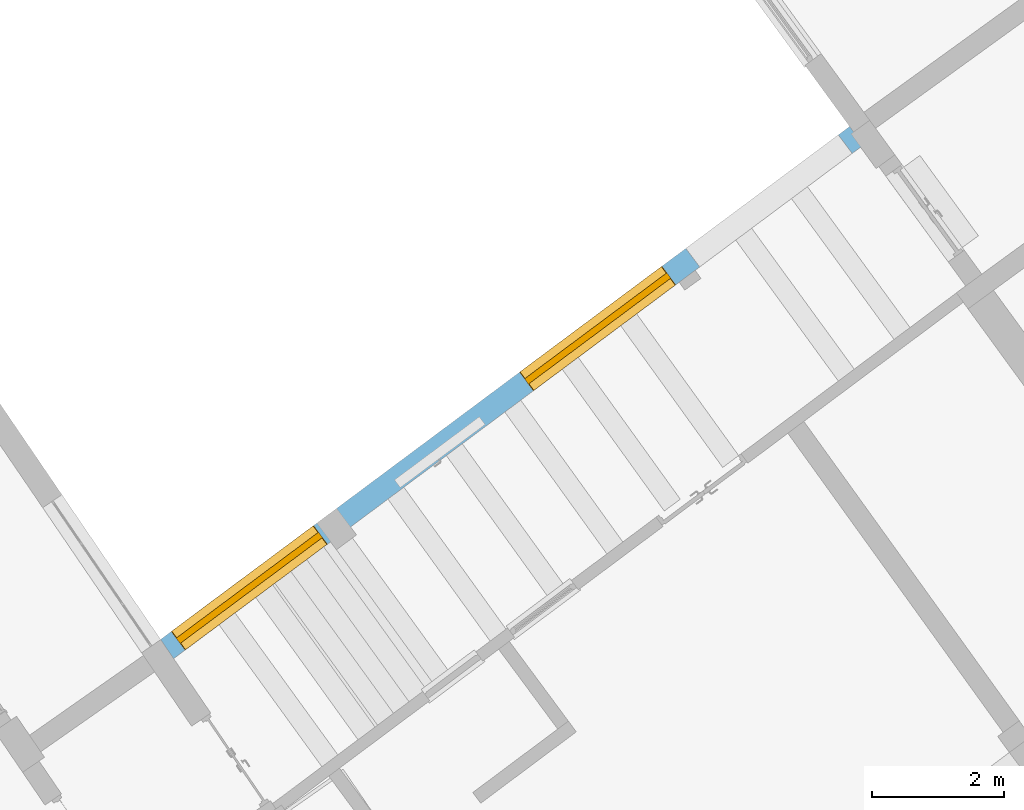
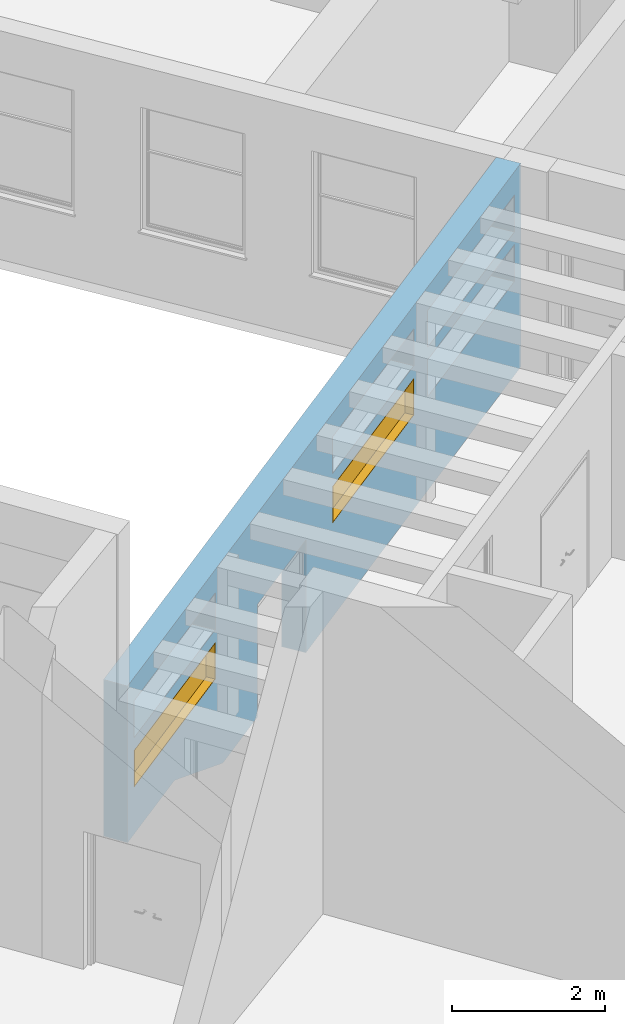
# One storey, part 140 of 157: 2 windows, 7 openings, plus 1 element that does not belong to this part.
"""IFC2X3 building model written with IfcOpenShell, lengths in millimetres."""

from ifc_helpers import new_model, entity, si_unit, converted_unit, derived_unit, direction, frame, frame_2d, origin, origin_2d_with_axis, place, context, subcontext, project, spatial, polyline, rectangle, outline, extrude, faceted_brep, source, transform, mapped, material, material_list, layer, layer_set, type_object, type_shapes, element, fill, save


model = new_model("IFC2X3")

# Units and contexts
model_context = context("Model", 3, precision=0.01, world=origin(), true_north=direction((6.123031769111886e-17, 1.0)))
body_context = subcontext(model_context, "Body", "Model", "MODEL_VIEW")
ifc_project = project(units=[si_unit("LENGTHUNIT", "METRE", prefix="MILLI"), si_unit("AREAUNIT", "SQUARE_METRE"), si_unit("VOLUMEUNIT", "CUBIC_METRE"), converted_unit("PLANEANGLEUNIT", "DEGREE", entity("IfcRatioMeasure", 0.017453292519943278), si_unit("PLANEANGLEUNIT", "RADIAN"), dimensions=[0, 0, 0, 0, 0, 0, 0]), si_unit("MASSUNIT", "GRAM", prefix="KILO"), derived_unit("MASSDENSITYUNIT", [(si_unit("MASSUNIT", "GRAM", prefix="KILO"), 1), (si_unit("LENGTHUNIT", "METRE"), -3)]), derived_unit("MOMENTOFINERTIAUNIT", [(si_unit("LENGTHUNIT", "METRE"), 4)]), si_unit("TIMEUNIT", "SECOND"), si_unit("FREQUENCYUNIT", "HERTZ"), si_unit("THERMODYNAMICTEMPERATUREUNIT", "DEGREE_CELSIUS"), derived_unit("THERMALTRANSMITTANCEUNIT", [(si_unit("MASSUNIT", "GRAM", prefix="KILO"), 1), (si_unit("THERMODYNAMICTEMPERATUREUNIT", "KELVIN"), -1), (si_unit("TIMEUNIT", "SECOND"), -3)]), derived_unit("THERMALCONDUCTANCEUNIT", [(si_unit("MASSUNIT", "GRAM", prefix="KILO"), 1), (si_unit("LENGTHUNIT", "METRE"), 1), (si_unit("THERMODYNAMICTEMPERATUREUNIT", "KELVIN"), -1), (si_unit("TIMEUNIT", "SECOND"), -3)]), derived_unit("VOLUMETRICFLOWRATEUNIT", [(si_unit("LENGTHUNIT", "METRE"), 3), (si_unit("TIMEUNIT", "SECOND"), -1)]), derived_unit("MASSFLOWRATEUNIT", [(si_unit("MASSUNIT", "GRAM", prefix="KILO"), 1), (si_unit("TIMEUNIT", "SECOND"), -1)]), derived_unit("ROTATIONALFREQUENCYUNIT", [(si_unit("TIMEUNIT", "SECOND"), -1)]), si_unit("ELECTRICCURRENTUNIT", "AMPERE"), si_unit("ELECTRICVOLTAGEUNIT", "VOLT"), si_unit("POWERUNIT", "WATT"), converted_unit("FORCEUNIT", "KIP", entity("IfcRatioMeasure", 2.088543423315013e-05), si_unit("FORCEUNIT", "NEWTON"), dimensions=[1, 1, -2, 0, 0, 0, 0]), si_unit("ILLUMINANCEUNIT", "LUX"), si_unit("LUMINOUSFLUXUNIT", "LUMEN"), si_unit("LUMINOUSINTENSITYUNIT", "CANDELA"), derived_unit("USERDEFINED", [(si_unit("MASSUNIT", "GRAM", prefix="KILO"), -1), (si_unit("LENGTHUNIT", "METRE"), -2), (si_unit("TIMEUNIT", "SECOND"), 3), (si_unit("LUMINOUSFLUXUNIT", "LUMEN"), 1)]), derived_unit("USERDEFINED", [(si_unit("MASSUNIT", "GRAM", prefix="KILO"), 1), (si_unit("LENGTHUNIT", "METRE"), 3), (si_unit("TIMEUNIT", "SECOND"), -3), (si_unit("ELECTRICCURRENTUNIT", "AMPERE"), -2)]), derived_unit("USERDEFINED", [(si_unit("LENGTHUNIT", "METRE"), 2), (si_unit("TIMEUNIT", "SECOND"), -2)]), derived_unit("SOUNDPOWERUNIT", [(si_unit("MASSUNIT", "GRAM", prefix="KILO"), 1), (si_unit("LENGTHUNIT", "METRE"), 2), (si_unit("TIMEUNIT", "SECOND"), -3)]), derived_unit("SOUNDPRESSUREUNIT", [(si_unit("MASSUNIT", "GRAM", prefix="KILO"), 1), (si_unit("LENGTHUNIT", "METRE"), -1), (si_unit("TIMEUNIT", "SECOND"), -2)]), derived_unit("LINEARVELOCITYUNIT", [(si_unit("LENGTHUNIT", "METRE"), 1), (si_unit("TIMEUNIT", "SECOND"), -1)]), si_unit("PRESSUREUNIT", "PASCAL"), derived_unit("USERDEFINED", [(si_unit("LENGTHUNIT", "METRE"), -2), (si_unit("MASSUNIT", "GRAM", prefix="KILO"), 1), (si_unit("TIMEUNIT", "SECOND"), -2)]), derived_unit("LINEARFORCEUNIT", [(si_unit("MASSUNIT", "GRAM", prefix="KILO"), 1), (si_unit("LENGTHUNIT", "METRE"), 1), (si_unit("TIMEUNIT", "SECOND"), -2), (si_unit("LENGTHUNIT", "METRE"), -1)]), derived_unit("PLANARFORCEUNIT", [(si_unit("MASSUNIT", "GRAM", prefix="KILO"), 1), (si_unit("LENGTHUNIT", "METRE"), 1), (si_unit("TIMEUNIT", "SECOND"), -2), (si_unit("LENGTHUNIT", "METRE"), -2)]), derived_unit("SPECIFICHEATCAPACITYUNIT", [(si_unit("LENGTHUNIT", "METRE"), 2), (si_unit("TIMEUNIT", "SECOND"), -2), (si_unit("THERMODYNAMICTEMPERATUREUNIT", "KELVIN"), -1)]), derived_unit("VAPORPERMEABILITYUNIT", [(si_unit("TIMEUNIT", "SECOND"), 1), (si_unit("LENGTHUNIT", "METRE"), -1)]), derived_unit("DYNAMICVISCOSITYUNIT", [(si_unit("MASSUNIT", "GRAM", prefix="KILO"), 1), (si_unit("LENGTHUNIT", "METRE"), -1), (si_unit("TIMEUNIT", "SECOND"), -1)]), derived_unit("THERMALEXPANSIONCOEFFICIENTUNIT", [(si_unit("THERMODYNAMICTEMPERATUREUNIT", "KELVIN"), -1)])], contexts=[model_context])

# Site, building, storey
site_placement = place(None, frame((0.0, 0.0, 0.0), z_axis=(0.0, 0.0, 1.0), x_axis=(0.8191520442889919, 0.5735764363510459, 0.0)))
site = spatial("IfcSite", under=ifc_project, at=site_placement, Name="Default", CompositionType="ELEMENT")
building_placement = place(site_placement, origin())
building = spatial("IfcBuilding", under=site, at=building_placement, CompositionType="ELEMENT")
storey_placement = place(building_placement, origin())
storey = spatial("IfcBuildingStorey", under=building, at=storey_placement, Name="1.EG +0.00", CompositionType="ELEMENT", Elevation=-4.331468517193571e-12)

# Wall, openings, windows
ifc_material_1 = material(Name="Analytical Wall Surface_CJC")
ifc_layer = layer(ifc_material_1, 350.0)
ifc_layer_set = layer_set([ifc_layer], Name="Basic Wall:Wand_Innen_35")
wall_type = type_object("IfcWallType", Name="Basic Wall:Wand_Innen_35", PredefinedType="STANDARD", material=ifc_layer_set)
wall_placement = place(storey_placement, frame((-204101.05348576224, 166996.005670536, -750.0), z_axis=(0.0, 0.0, 1.0), x_axis=(0.9995749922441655, 0.029151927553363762, 0.0)))
wall = element("IfcWall", 1, at=wall_placement, inside=storey, type_object=wall_type, Name="Basic Wall:Wand_Innen_35", ObjectType="Basic Wall:Wand_Innen_35", context=body_context, shape_type="Brep", body=[
    faceted_brep([(12984.138347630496, -175.0, 0.0), (12984.138347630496, -175.0, 3250.0), (11930.363742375, -175.0, 3250.0), (11630.346839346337, -175.0, 3250.0), (10880.30458177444, -175.0, 3250.0), (10580.287678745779, -175.0, 3250.0), (9815.893972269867, -175.0, 3250.0), (9515.854710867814, -175.0, 3250.0), (8715.750013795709, -175.0, 3250.0), (8415.710752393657, -175.0, 3250.0), (7615.606055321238, -175.0, 3250.0), (7315.566793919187, -175.0, 3250.0), (6533.797199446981, -175.0, 3250.0), (6233.757938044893, -175.0, 3250.0), (5433.653240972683, -175.0, 3250.0), (5133.613979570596, -175.0, 3250.0), (4333.509282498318, -175.0, 3250.0), (4033.4700210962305, -175.0, 3250.0), (3255.528447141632, -175.0, 3250.0), (2955.5004618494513, -175.0, 3250.0), (2205.5288961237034, -175.0, 3250.0), (1905.500757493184, -175.0, 3250.0), (1155.3068251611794, -175.0, 3250.0), (855.2816970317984, -175.0, 3250.0), (0.0, -175.0, 3250.0), (0.0, -175.0, 750.0), (1550.1638463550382, -175.0, 750.0), (3145.5153249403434, -175.0, 0.0), (4284.138347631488, -175.0, 0.0), (4284.138347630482, -175.0, 1800.0), (5884.138347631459, -175.0, 1800.0), (5884.138347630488, -175.0, 0.0), (9515.854710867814, -175.0, 0.0), (9815.893972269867, -175.0, 0.0), (2895.1186250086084, -175.0, 2090.0), (2895.1186250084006, -175.0, 1500.0), (215.11862500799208, -175.0, 1500.0), (215.11862500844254, -175.0, 2090.0), (9451.157462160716, -175.0, 2090.0), (9451.157462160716, -175.0, 1500.0), (6771.157462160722, -175.0, 1500.0), (6771.157462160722, -175.0, 2090.0), (12771.942690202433, -175.0, 2090.0), (12771.942690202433, -175.0, 1500.0), (9901.942690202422, -175.0, 1500.0), (9901.942690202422, -175.0, 2090.0), (12771.942690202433, -175.0, 2880.0), (12771.942690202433, -175.0, 2290.0), (9901.942690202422, -175.0, 2290.0), (9901.942690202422, -175.0, 2880.0), (9451.157462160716, -175.0, 2880.0), (9451.157462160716, -175.0, 2290.0), (6771.157462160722, -175.0, 2290.0), (6771.157462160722, -175.0, 2880.0), (2895.1186250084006, -175.0, 2880.0), (2895.1186250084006, -175.0, 2290.0), (215.1186250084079, -175.0, 2290.0), (215.1186250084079, -175.0, 2880.0), (12984.138347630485, 175.0, 3250.0), (12984.138347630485, 175.0, 0.0), (5884.138347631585, 175.0, 0.0), (5884.138347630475, 175.0, 1800.0), (4284.138347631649, 175.0, 1800.0), (4284.13834763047, 175.0, 0.0), (3145.515324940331, 175.0, 0.0), (1550.1638463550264, 175.0, 750.0), (14.668675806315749, 175.0, 750.0), (14.668675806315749, 175.0, 3250.0), (2895.118625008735, 175.0, 1500.0), (2895.118625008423, 175.0, 2090.0), (215.11862500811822, 175.0, 2090.0), (215.1186250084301, 175.0, 1500.0), (9451.157462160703, 175.0, 1500.0), (9451.157462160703, 175.0, 2090.0), (6771.15746216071, 175.0, 2090.0), (6771.15746216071, 175.0, 1500.0), (12771.942690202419, 175.0, 1500.0), (12771.942690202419, 175.0, 2090.0), (9901.94269020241, 175.0, 2090.0), (9901.94269020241, 175.0, 1500.0), (12771.942690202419, 175.0, 2290.0), (12771.942690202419, 175.0, 2880.0), (9901.94269020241, 175.0, 2880.0), (9901.94269020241, 175.0, 2290.0), (9451.157462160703, 175.0, 2290.0), (9451.157462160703, 175.0, 2880.0), (6771.15746216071, 175.0, 2880.0), (6771.15746216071, 175.0, 2290.0), (2895.1186250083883, 175.0, 2290.0), (2895.1186250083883, 175.0, 2880.0), (215.11862500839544, 175.0, 2880.0), (215.11862500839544, 175.0, 2290.0)], [[[0, 1, 2, 3, 4, 5, 6, 7, 8, 9, 10, 11, 12, 13, 14, 15, 16, 17, 18, 19, 20, 21, 22, 23, 24, 25, 26, 27, 28, 29, 30, 31, 32, 33], [34, 35, 36, 37], [38, 39, 40, 41], [42, 43, 44, 45], [46, 47, 48, 49], [50, 51, 52, 53], [54, 55, 56, 57]], [[58, 59, 60, 61, 62, 63, 64, 65, 66, 67], [68, 69, 70, 71], [72, 73, 74, 75], [76, 77, 78, 79], [80, 81, 82, 83], [84, 85, 86, 87], [88, 89, 90, 91]], [[25, 24, 67, 66]], [[27, 64, 63, 28]], [[1, 0, 59, 58]], [[24, 23, 22, 21, 20, 19, 18, 17, 16, 15, 14, 13, 12, 11, 10, 9, 8, 7, 6, 5, 4, 3, 2, 1, 58, 67]], [[26, 25, 66, 65]], [[27, 26, 65, 64]], [[62, 29, 28, 63]], [[29, 62, 61, 30]], [[30, 61, 60, 31]], [[68, 35, 34, 69]], [[69, 34, 37, 70]], [[70, 37, 36, 71]], [[35, 68, 71, 36]], [[73, 72, 39, 38]], [[74, 73, 38, 41]], [[75, 74, 41, 40]], [[72, 75, 40, 39]], [[77, 76, 43, 42]], [[78, 77, 42, 45]], [[79, 78, 45, 44]], [[76, 79, 44, 43]], [[81, 80, 47, 46]], [[82, 81, 46, 49]], [[83, 82, 49, 48]], [[80, 83, 48, 47]], [[85, 84, 51, 50]], [[86, 85, 50, 53]], [[87, 86, 53, 52]], [[84, 87, 52, 51]], [[89, 88, 55, 54]], [[90, 89, 54, 57]], [[91, 90, 57, 56]], [[88, 91, 56, 55]], [[59, 0, 33, 32, 31, 60]]]),
])
opening_1_placement = place(wall_placement, frame((5884.138347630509, 175.0, -400.0)))
element("IfcOpeningElement", 2, at=opening_1_placement, cuts=wall, Name="M_Door-Passage-Double-Flush:150x210:1", ObjectType="Opening", context=body_context, shape_type="SweptSolid", body=[
    extrude(rectangle(XDim=2200.0, YDim=1599.999999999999, at=frame_2d((1100.0, 799.9999999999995), x_axis=(1.0, 0.0))), frame((0.0, 0.0, 0.0), z_axis=(0.0, -1.0, 0.0), x_axis=(0.0, 0.0, 1.0)), (0.0, 0.0, 1.0), 350.0),
])
opening_2_placement = place(wall_placement, frame((2895.1186250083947, 175.0, 1500.0)))
opening_2 = element("IfcOpeningElement", 3, at=opening_2_placement, cuts=wall, Name="WINDOW_Glass_Block:WINDOW_Glass_Block_14x3:1", ObjectType="Opening", context=body_context, shape_type="SweptSolid", body=[
    extrude(rectangle(XDim=589.9999999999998, YDim=2679.999999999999, at=frame_2d((294.99999999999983, 1339.9999999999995), x_axis=(1.0, 0.0))), frame((0.0, 0.0, 0.0), z_axis=(0.0, -1.0, 0.0), x_axis=(0.0, 0.0, 1.0)), (0.0, 0.0, 1.0), 350.0),
])
opening_3_placement = place(wall_placement, frame((9451.157462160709, 175.0, 1500.0)))
opening_3 = element("IfcOpeningElement", 4, at=opening_3_placement, cuts=wall, Name="WINDOW_Glass_Block:WINDOW_Glass_Block_14x3:1", ObjectType="Opening", context=body_context, shape_type="SweptSolid", body=[
    extrude(rectangle(XDim=589.9999999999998, YDim=2679.999999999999, at=frame_2d((294.99999999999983, 1339.9999999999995), x_axis=(1.0, 0.0))), frame((0.0, 0.0, 0.0), z_axis=(0.0, -1.0, 0.0), x_axis=(0.0, 0.0, 1.0)), (0.0, 0.0, 1.0), 350.0),
])
opening_4_placement = place(wall_placement, frame((12771.942690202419, 175.0, 1500.0)))
element("IfcOpeningElement", 5, at=opening_4_placement, cuts=wall, Name="WINDOW_Glass_Block:WINDOW_Glass_Block_15x3:1", ObjectType="Opening", context=body_context, shape_type="SweptSolid", body=[
    extrude(rectangle(XDim=589.9999999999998, YDim=2869.9999999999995, at=frame_2d((294.99999999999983, 1435.0000000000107), x_axis=(1.0, 0.0))), frame((0.0, 0.0, 0.0), z_axis=(0.0, -1.0, 0.0), x_axis=(0.0, 0.0, 1.0)), (0.0, 0.0, 1.0), 350.0),
])
opening_5_placement = place(wall_placement, frame((2895.1186250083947, 175.0, 2290.0)))
element("IfcOpeningElement", 6, at=opening_5_placement, cuts=wall, Name="WINDOW_Glass_Block:WINDOW_Glass_Block_14x3:1", ObjectType="Opening", context=body_context, shape_type="SweptSolid", body=[
    extrude(rectangle(XDim=589.9999999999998, YDim=2679.999999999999, at=frame_2d((294.99999999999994, 1339.9999999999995), x_axis=(1.0, 0.0))), frame((0.0, 0.0, 0.0), z_axis=(0.0, -1.0, 0.0), x_axis=(0.0, 0.0, 1.0)), (0.0, 0.0, 1.0), 350.0),
])
opening_6_placement = place(wall_placement, frame((9451.157462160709, 175.0, 2290.0)))
element("IfcOpeningElement", 7, at=opening_6_placement, cuts=wall, Name="WINDOW_Glass_Block:WINDOW_Glass_Block_14x3:1", ObjectType="Opening", context=body_context, shape_type="SweptSolid", body=[
    extrude(rectangle(XDim=589.9999999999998, YDim=2679.999999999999, at=frame_2d((294.99999999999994, 1339.9999999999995), x_axis=(1.0, 0.0))), frame((0.0, 0.0, 0.0), z_axis=(0.0, -1.0, 0.0), x_axis=(0.0, 0.0, 1.0)), (0.0, 0.0, 1.0), 350.0),
])
opening_7_placement = place(wall_placement, frame((12771.942690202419, 175.0, 2290.0)))
element("IfcOpeningElement", 8, at=opening_7_placement, cuts=wall, Name="WINDOW_Glass_Block:WINDOW_Glass_Block_15x3:1", ObjectType="Opening", context=body_context, shape_type="SweptSolid", body=[
    extrude(rectangle(XDim=589.9999999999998, YDim=2869.9999999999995, at=frame_2d((294.99999999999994, 1435.0000000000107), x_axis=(1.0, 0.0))), frame((0.0, 0.0, 0.0), z_axis=(0.0, -1.0, 0.0), x_axis=(0.0, 0.0, 1.0)), (0.0, 0.0, 1.0), 350.0),
])
ifc_material_2 = material(Name="Glass")
ifc_material_3 = material(Name="Wood")
ifc_material_list = material_list([ifc_material_2, ifc_material_3])
window_style = type_object("IfcWindowStyle", Name="WINDOW_Glass_Block:WINDOW_Glass_Block_14x3", ConstructionType="NOTDEFINED", OperationType="NOTDEFINED", ParameterTakesPrecedence=False, Sizeable=False, material=ifc_material_list)
shared_shape = source(origin(), body_context, "Body", "SweptSolid", [
    extrude(rectangle(XDim=190.0, YDim=100.0, at=frame_2d((6.394884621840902e-14, 0.0), x_axis=(1.0, 0.0))), frame((2385.0, 175.0, 200.0), z_axis=(0.0, 0.0, 1.0), x_axis=(-1.0, 0.0, 0.0)), (0.0, 0.0, 1.0), 189.99999999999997),
    extrude(rectangle(XDim=190.0, YDim=100.0, at=frame_2d((-6.394884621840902e-14, 0.0), x_axis=(1.0, 0.0))), frame((2195.0, 175.0, 200.0), z_axis=(0.0, 0.0, 1.0), x_axis=(-1.0, 0.0, 0.0)), (0.0, 0.0, 1.0), 189.99999999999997),
    extrude(rectangle(XDim=190.0, YDim=100.0, at=frame_2d((6.394884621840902e-14, 0.0), x_axis=(1.0, 0.0))), frame((2005.0, 175.0, 200.0), z_axis=(0.0, 0.0, 1.0), x_axis=(-1.0, 0.0, 0.0)), (0.0, 0.0, 1.0), 189.99999999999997),
    extrude(rectangle(XDim=190.0, YDim=100.0, at=frame_2d((-6.394884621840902e-14, 0.0), x_axis=(1.0, 0.0))), frame((1815.0, 175.0, 200.0), z_axis=(0.0, 0.0, 1.0), x_axis=(-1.0, 0.0, 0.0)), (0.0, 0.0, 1.0), 189.99999999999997),
    extrude(rectangle(XDim=189.99999999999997, YDim=100.0, at=origin_2d_with_axis()), frame((1625.0, 175.0, 200.0), z_axis=(0.0, 0.0, 1.0), x_axis=(-1.0, 0.0, 0.0)), (0.0, 0.0, 1.0), 189.99999999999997),
    extrude(rectangle(XDim=190.00000000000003, YDim=100.0, at=origin_2d_with_axis()), frame((1435.0, 175.0, 200.0), z_axis=(0.0, 0.0, 1.0), x_axis=(-1.0, 0.0, 0.0)), (0.0, 0.0, 1.0), 189.99999999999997),
    extrude(rectangle(XDim=190.0, YDim=100.0, at=frame_2d((-2.1316282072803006e-14, 0.0), x_axis=(1.0, 0.0))), frame((1245.0, 175.0, 200.0), z_axis=(0.0, 0.0, 1.0), x_axis=(-1.0, 0.0, 0.0)), (0.0, 0.0, 1.0), 189.99999999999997),
    extrude(rectangle(XDim=190.0, YDim=100.0, at=frame_2d((-2.1316282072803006e-14, 0.0), x_axis=(1.0, 0.0))), frame((1055.0, 175.0, 200.0), z_axis=(0.0, 0.0, 1.0), x_axis=(-1.0, 0.0, 0.0)), (0.0, 0.0, 1.0), 189.99999999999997),
    extrude(rectangle(XDim=190.0, YDim=100.0, at=frame_2d((-6.394884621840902e-14, 0.0), x_axis=(1.0, 0.0))), frame((865.0, 175.0, 200.0), z_axis=(0.0, 0.0, 1.0), x_axis=(-1.0, 0.0, 0.0)), (0.0, 0.0, 1.0), 189.99999999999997),
    extrude(rectangle(XDim=190.0, YDim=100.0, at=frame_2d((6.394884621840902e-14, 0.0), x_axis=(1.0, 0.0))), frame((675.0, 175.0, 200.0), z_axis=(0.0, 0.0, 1.0), x_axis=(-1.0, 0.0, 0.0)), (0.0, 0.0, 1.0), 189.99999999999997),
    extrude(rectangle(XDim=190.0, YDim=100.0, at=frame_2d((-6.394884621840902e-14, 0.0), x_axis=(1.0, 0.0))), frame((485.0, 175.0, 200.0), z_axis=(0.0, 0.0, 1.0), x_axis=(-1.0, 0.0, 0.0)), (0.0, 0.0, 1.0), 189.99999999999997),
    extrude(rectangle(XDim=190.0, YDim=100.0, at=frame_2d((-6.394884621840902e-14, 0.0), x_axis=(1.0, 0.0))), frame((295.0, 175.0, 200.0), z_axis=(0.0, 0.0, 1.0), x_axis=(-1.0, 0.0, 0.0)), (0.0, 0.0, 1.0), 189.99999999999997),
    extrude(rectangle(XDim=190.0000000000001, YDim=100.0, at=origin_2d_with_axis()), frame((2575.0, 175.0, 200.0), z_axis=(0.0, 0.0, 1.0), x_axis=(-1.0, 0.0, 0.0)), (0.0, 0.0, 1.0), 189.99999999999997),
    extrude(rectangle(XDim=190.0, YDim=100.0, at=frame_2d((6.394884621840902e-14, 0.0), x_axis=(1.0, 0.0))), frame((105.0, 175.0, 200.0), z_axis=(0.0, 0.0, 1.0), x_axis=(-1.0, 0.0, 0.0)), (0.0, 0.0, 1.0), 189.99999999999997),
    extrude(rectangle(XDim=190.0, YDim=100.0, at=frame_2d((6.394884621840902e-14, 0.0), x_axis=(1.0, 0.0))), frame((2385.0, 175.0, 390.0), z_axis=(0.0, 0.0, 1.0), x_axis=(-1.0, 0.0, 0.0)), (0.0, 0.0, 1.0), 190.0000000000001),
    extrude(rectangle(XDim=190.0, YDim=100.0, at=frame_2d((-6.394884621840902e-14, 0.0), x_axis=(1.0, 0.0))), frame((2195.0, 175.0, 390.0), z_axis=(0.0, 0.0, 1.0), x_axis=(-1.0, 0.0, 0.0)), (0.0, 0.0, 1.0), 190.0000000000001),
    extrude(rectangle(XDim=190.0, YDim=100.0, at=frame_2d((6.394884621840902e-14, 0.0), x_axis=(1.0, 0.0))), frame((2005.0, 175.0, 390.0), z_axis=(0.0, 0.0, 1.0), x_axis=(-1.0, 0.0, 0.0)), (0.0, 0.0, 1.0), 190.0000000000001),
    extrude(rectangle(XDim=190.0, YDim=100.0, at=frame_2d((-6.394884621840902e-14, 0.0), x_axis=(1.0, 0.0))), frame((1815.0, 175.0, 390.0), z_axis=(0.0, 0.0, 1.0), x_axis=(-1.0, 0.0, 0.0)), (0.0, 0.0, 1.0), 190.0000000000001),
    extrude(rectangle(XDim=189.99999999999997, YDim=100.0, at=origin_2d_with_axis()), frame((1625.0, 175.0, 390.0), z_axis=(0.0, 0.0, 1.0), x_axis=(-1.0, 0.0, 0.0)), (0.0, 0.0, 1.0), 190.0000000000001),
    extrude(rectangle(XDim=190.00000000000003, YDim=100.0, at=origin_2d_with_axis()), frame((1435.0, 175.0, 390.0), z_axis=(0.0, 0.0, 1.0), x_axis=(-1.0, 0.0, 0.0)), (0.0, 0.0, 1.0), 190.0000000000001),
    extrude(rectangle(XDim=190.0, YDim=100.0, at=frame_2d((-2.1316282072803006e-14, 0.0), x_axis=(1.0, 0.0))), frame((1245.0, 175.0, 390.0), z_axis=(0.0, 0.0, 1.0), x_axis=(-1.0, 0.0, 0.0)), (0.0, 0.0, 1.0), 190.0000000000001),
    extrude(rectangle(XDim=190.0, YDim=100.0, at=frame_2d((-2.1316282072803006e-14, 0.0), x_axis=(1.0, 0.0))), frame((1055.0, 175.0, 390.0), z_axis=(0.0, 0.0, 1.0), x_axis=(-1.0, 0.0, 0.0)), (0.0, 0.0, 1.0), 190.0000000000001),
    extrude(rectangle(XDim=190.0, YDim=100.0, at=frame_2d((-6.394884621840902e-14, 0.0), x_axis=(1.0, 0.0))), frame((865.0, 175.0, 390.0), z_axis=(0.0, 0.0, 1.0), x_axis=(-1.0, 0.0, 0.0)), (0.0, 0.0, 1.0), 190.0000000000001),
    extrude(rectangle(XDim=190.0, YDim=100.0, at=frame_2d((6.394884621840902e-14, 0.0), x_axis=(1.0, 0.0))), frame((675.0, 175.0, 390.0), z_axis=(0.0, 0.0, 1.0), x_axis=(-1.0, 0.0, 0.0)), (0.0, 0.0, 1.0), 190.0000000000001),
    extrude(rectangle(XDim=190.0, YDim=100.0, at=frame_2d((-6.394884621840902e-14, 0.0), x_axis=(1.0, 0.0))), frame((485.0, 175.0, 390.0), z_axis=(0.0, 0.0, 1.0), x_axis=(-1.0, 0.0, 0.0)), (0.0, 0.0, 1.0), 190.0000000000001),
    extrude(rectangle(XDim=190.0, YDim=100.0, at=frame_2d((-6.394884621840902e-14, 0.0), x_axis=(1.0, 0.0))), frame((295.0, 175.0, 390.0), z_axis=(0.0, 0.0, 1.0), x_axis=(-1.0, 0.0, 0.0)), (0.0, 0.0, 1.0), 190.0000000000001),
    extrude(rectangle(XDim=190.0000000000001, YDim=100.0, at=origin_2d_with_axis()), frame((2575.0, 175.0, 390.0), z_axis=(0.0, 0.0, 1.0), x_axis=(-1.0, 0.0, 0.0)), (0.0, 0.0, 1.0), 190.0000000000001),
    extrude(rectangle(XDim=190.0, YDim=100.0, at=frame_2d((6.394884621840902e-14, 0.0), x_axis=(1.0, 0.0))), frame((105.0, 175.0, 390.0), z_axis=(0.0, 0.0, 1.0), x_axis=(-1.0, 0.0, 0.0)), (0.0, 0.0, 1.0), 190.0000000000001),
    extrude(rectangle(XDim=190.0, YDim=100.0, at=frame_2d((6.394884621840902e-14, 0.0), x_axis=(1.0, 0.0))), frame((2385.0, 175.0, 10.0), z_axis=(0.0, 0.0, 1.0), x_axis=(-1.0, 0.0, 0.0)), (0.0, 0.0, 1.0), 189.99999999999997),
    extrude(rectangle(XDim=190.0, YDim=100.0, at=frame_2d((-6.394884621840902e-14, 0.0), x_axis=(1.0, 0.0))), frame((2195.0, 175.0, 10.0), z_axis=(0.0, 0.0, 1.0), x_axis=(-1.0, 0.0, 0.0)), (0.0, 0.0, 1.0), 189.99999999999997),
    extrude(rectangle(XDim=190.0, YDim=100.0, at=frame_2d((6.394884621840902e-14, 0.0), x_axis=(1.0, 0.0))), frame((2005.0, 175.0, 10.0), z_axis=(0.0, 0.0, 1.0), x_axis=(-1.0, 0.0, 0.0)), (0.0, 0.0, 1.0), 189.99999999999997),
    extrude(rectangle(XDim=190.0, YDim=100.0, at=frame_2d((-6.394884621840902e-14, 0.0), x_axis=(1.0, 0.0))), frame((1815.0, 175.0, 10.0), z_axis=(0.0, 0.0, 1.0), x_axis=(-1.0, 0.0, 0.0)), (0.0, 0.0, 1.0), 189.99999999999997),
    extrude(rectangle(XDim=189.99999999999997, YDim=100.0, at=origin_2d_with_axis()), frame((1625.0, 175.0, 10.0), z_axis=(0.0, 0.0, 1.0), x_axis=(-1.0, 0.0, 0.0)), (0.0, 0.0, 1.0), 189.99999999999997),
    extrude(rectangle(XDim=190.00000000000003, YDim=100.0, at=origin_2d_with_axis()), frame((1435.0, 175.0, 10.0), z_axis=(0.0, 0.0, 1.0), x_axis=(-1.0, 0.0, 0.0)), (0.0, 0.0, 1.0), 189.99999999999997),
    extrude(rectangle(XDim=190.0, YDim=100.0, at=frame_2d((-2.1316282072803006e-14, 0.0), x_axis=(1.0, 0.0))), frame((1245.0, 175.0, 10.0), z_axis=(0.0, 0.0, 1.0), x_axis=(-1.0, 0.0, 0.0)), (0.0, 0.0, 1.0), 189.99999999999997),
    extrude(rectangle(XDim=190.0, YDim=100.0, at=frame_2d((-2.1316282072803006e-14, 0.0), x_axis=(1.0, 0.0))), frame((1055.0, 175.0, 10.0), z_axis=(0.0, 0.0, 1.0), x_axis=(-1.0, 0.0, 0.0)), (0.0, 0.0, 1.0), 189.99999999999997),
    extrude(rectangle(XDim=190.0, YDim=100.0, at=frame_2d((-6.394884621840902e-14, 0.0), x_axis=(1.0, 0.0))), frame((865.0, 175.0, 10.0), z_axis=(0.0, 0.0, 1.0), x_axis=(-1.0, 0.0, 0.0)), (0.0, 0.0, 1.0), 189.99999999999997),
    extrude(rectangle(XDim=190.0, YDim=100.0, at=frame_2d((6.394884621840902e-14, 0.0), x_axis=(1.0, 0.0))), frame((675.0, 175.0, 10.0), z_axis=(0.0, 0.0, 1.0), x_axis=(-1.0, 0.0, 0.0)), (0.0, 0.0, 1.0), 189.99999999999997),
    extrude(rectangle(XDim=190.0, YDim=100.0, at=frame_2d((-6.394884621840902e-14, 0.0), x_axis=(1.0, 0.0))), frame((485.0, 175.0, 10.0), z_axis=(0.0, 0.0, 1.0), x_axis=(-1.0, 0.0, 0.0)), (0.0, 0.0, 1.0), 189.99999999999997),
    extrude(rectangle(XDim=190.0, YDim=100.0, at=frame_2d((-6.394884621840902e-14, 0.0), x_axis=(1.0, 0.0))), frame((295.0, 175.0, 10.0), z_axis=(0.0, 0.0, 1.0), x_axis=(-1.0, 0.0, 0.0)), (0.0, 0.0, 1.0), 189.99999999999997),
    extrude(rectangle(XDim=190.0000000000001, YDim=100.0, at=origin_2d_with_axis()), frame((2575.0, 175.0, 10.0), z_axis=(0.0, 0.0, 1.0), x_axis=(-1.0, 0.0, 0.0)), (0.0, 0.0, 1.0), 189.99999999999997),
    extrude(rectangle(XDim=190.0, YDim=100.0, at=frame_2d((6.394884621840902e-14, 0.0), x_axis=(1.0, 0.0))), frame((105.0, 175.0, 10.0), z_axis=(0.0, 0.0, 1.0), x_axis=(-1.0, 0.0, 0.0)), (0.0, 0.0, 1.0), 189.99999999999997),
    extrude(outline(polyline([(-295.0, -1340.0), (295.0, -1340.0), (295.0, 1340.0), (-295.0, 1340.0), (-295.0, -1340.0)]), holes=[polyline([(-285.0, -1330.0), (-285.0, 1330.0), (285.0, 1330.0), (285.0, -1330.0), (-285.0, -1330.0)])]), frame((1340.0, 0.0, 295.0), z_axis=(0.0, 1.0, 0.0), x_axis=(0.0, 0.0, -1.0)), (0.0, 0.0, 1.0), 350.0),
])
type_shapes(window_style, [shared_shape])
window_1_placement = place(opening_2_placement, frame((0.0, 0.0, 0.0), z_axis=(0.0, 0.0, 1.0), x_axis=(-1.0, 0.0, 0.0)))
window_1 = element("IfcWindow", 9, at=window_1_placement, inside=storey, type_object=window_style, material=ifc_material_list, Name="WINDOW_Glass_Block:WINDOW_Glass_Block_14x3", ObjectType="WINDOW_Glass_Block:WINDOW_Glass_Block_14x3", OverallHeight=589.9999999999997, OverallWidth=2679.999999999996, context=body_context, shape_type="MappedRepresentation", body=[
    mapped(shared_shape, transform((0.0, 0.0, 0.0), scale=1.0)),
])
fill(opening_2, window_1)
window_2_placement = place(opening_3_placement, frame((0.0, 0.0, 0.0), z_axis=(0.0, 0.0, 1.0), x_axis=(-1.0, 0.0, 0.0)))
window_2 = element("IfcWindow", 10, at=window_2_placement, inside=storey, type_object=window_style, material=ifc_material_list, Name="WINDOW_Glass_Block:WINDOW_Glass_Block_14x3", ObjectType="WINDOW_Glass_Block:WINDOW_Glass_Block_14x3", OverallHeight=589.9999999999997, OverallWidth=2679.999999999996, context=body_context, shape_type="MappedRepresentation", body=[
    mapped(shared_shape, transform((0.0, 0.0, 0.0), scale=1.0)),
])
fill(opening_3, window_2)

save(model, "model.ifc")
